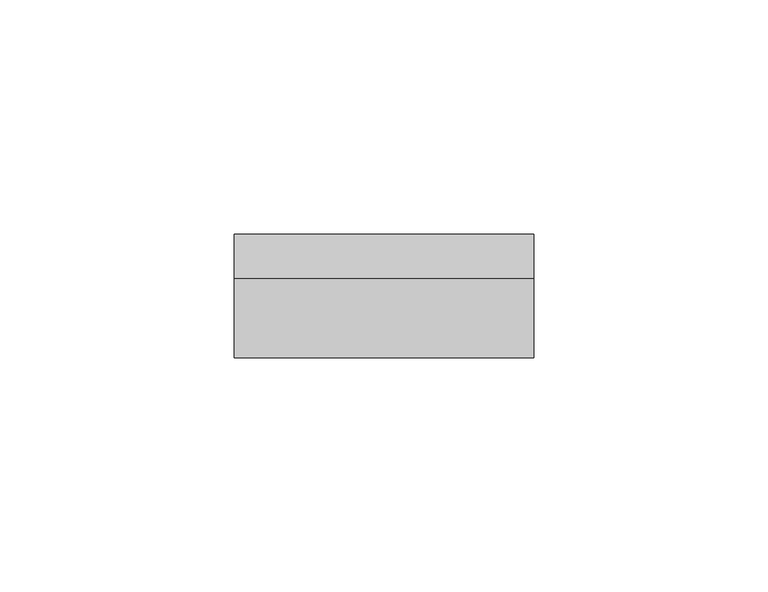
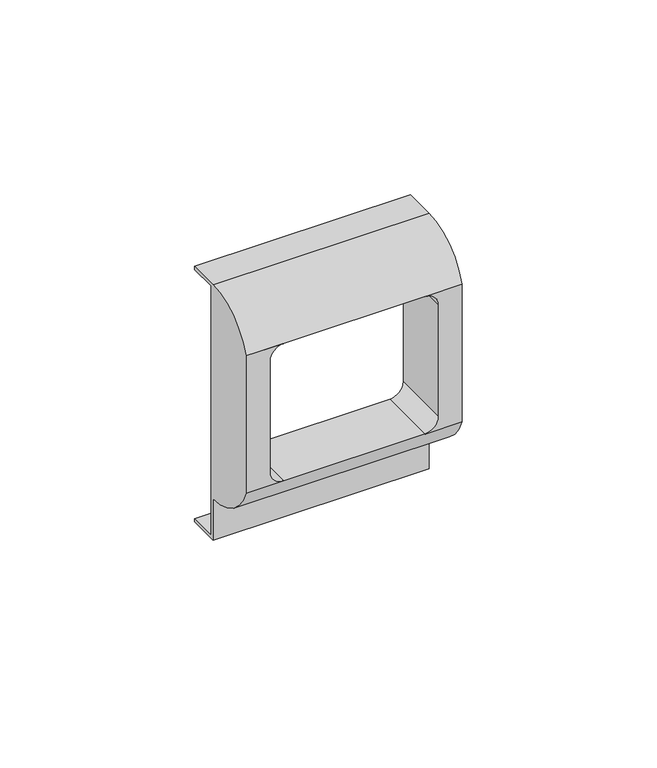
"""IFC4 building model written with IfcOpenShell, lengths in millimetres: proxy geometry."""

from ifc_helpers import new_model, si_unit, frame, origin, place, context, project, spatial, polyline, circle_curve, source, transform, mapped, element, save
from ifc_brep_helpers import plane_surface, cylinder_surface, revolved_surface, advanced_brep


def electrical_fixtures_7fec0965(model_context):
    return source(origin(), model_context, "Body", "AdvancedBrep", [
        advanced_brep(
        [(32.0, 8.4, 39.0), (32.0, 8.4, 40.0), (32.0, -1.0, 40.0), (32.0, -18.0, 28.0), (32.0, -18.0, -15.0), (32.0, -1.0, -27.0), (32.0, -1.0, -40.0), (32.0, 8.4, -40.0), (32.0, 8.4, -39.0), (32.0, 0.0, -39.0), (32.0, 0.0, 39.0), (-32.0, 8.4, 39.0), (-32.0, 0.0, 39.0), (-32.0, 0.0, -39.0), (-32.0, 8.4, -39.0), (-32.0, 8.4, -40.0), (-32.0, -1.0, -40.0), (-32.0, -1.0, -27.0), (-32.0, -18.0, -15.0), (-32.0, -18.0, 28.0), (-32.0, -1.0, 40.0), (-32.0, 8.4, 40.0), (20.9686648, -18.0, 28.0), (25.0, -18.0, 23.9686648), (25.0, -18.0, -10.9686648), (20.9686648, -18.0, -15.0), (-20.9686648, -18.0, -15.0), (-25.0, -18.0, -10.9686648), (-25.0, -18.0, 23.9686648), (-20.9686648, -18.0, 28.0), (20.9686648, 0.0, 28.0), (-20.9686648, 0.0, 28.0), (-25.0, 0.0, 23.9686648), (-25.0, 0.0, -10.9686648), (-20.9686648, 0.0, -15.0), (20.9686648, 0.0, -15.0), (25.0, 0.0, -10.9686648), (25.0, 0.0, 23.9686648)],
        [
            (0, 1),
            (1, 2),
            (2, 3, circle_curve(frame((32.0, -1.0, 21.9583333), z_axis=(1.0, 0.0, 0.0), x_axis=(0.0, 1.0, 0.0)), 18.0416667)),
            (3, 4),
            (4, 5, circle_curve(frame((32.0, -1.0, -8.9583333), z_axis=(1.0, 0.0, 0.0), x_axis=(0.0, 1.0, 0.0)), 18.0416667)),
            (5, 6),
            (6, 7),
            (7, 8),
            (8, 9),
            (9, 10),
            (10, 0),
            (11, 12),
            (12, 13),
            (13, 14),
            (14, 15),
            (15, 16),
            (16, 17),
            (17, 18, circle_curve(frame((-32.0, -1.0, -8.9583333), z_axis=(-1.0, 0.0, 0.0), x_axis=(0.0, 1.0, 0.0)), 18.0416667)),
            (18, 19),
            (19, 20, circle_curve(frame((-32.0, -1.0, 21.9583333), z_axis=(-1.0, 0.0, 0.0), x_axis=(0.0, 1.0, 0.0)), 18.0416667)),
            (20, 21),
            (21, 11),
            (0, 11),
            (21, 1),
            (20, 2),
            (3, 22),
            (22, 23, circle_curve(frame((20.9686648, -18.0, 23.9686648), z_axis=(0.0, 1.0, 0.0), x_axis=(1.0, 0.0, 0.0)), 4.0313352)),
            (23, 24),
            (24, 25, circle_curve(frame((20.9686648, -18.0, -10.9686648), z_axis=(0.0, 1.0, 0.0), x_axis=(1.0, 0.0, 0.0)), 4.0313352)),
            (25, 4),
            (18, 26),
            (26, 27, circle_curve(frame((-20.9686648, -18.0, -10.9686648), z_axis=(0.0, 1.0, 0.0), x_axis=(1.0, 0.0, 0.0)), 4.0313352)),
            (27, 28),
            (28, 29, circle_curve(frame((-20.9686648, -18.0, 23.9686648), z_axis=(0.0, 1.0, 0.0), x_axis=(1.0, 0.0, 0.0)), 4.0313352)),
            (29, 19),
            (5, 17),
            (16, 6),
            (15, 7),
            (14, 8),
            (13, 9),
            (12, 10),
            (30, 31),
            (31, 32, circle_curve(frame((-20.9686648, 0.0, 23.9686648), z_axis=(0.0, -1.0, 0.0), x_axis=(1.0, 0.0, 0.0)), 4.0313352)),
            (32, 33),
            (33, 34, circle_curve(frame((-20.9686648, 0.0, -10.9686648), z_axis=(0.0, -1.0, 0.0), x_axis=(1.0, 0.0, 0.0)), 4.0313352)),
            (34, 35),
            (35, 36, circle_curve(frame((20.9686648, 0.0, -10.9686648), z_axis=(0.0, -1.0, 0.0), x_axis=(1.0, 0.0, 0.0)), 4.0313352)),
            (36, 37),
            (37, 30, circle_curve(frame((20.9686648, 0.0, 23.9686648), z_axis=(0.0, -1.0, 0.0), x_axis=(1.0, 0.0, 0.0)), 4.0313352)),
            (29, 22),
            (25, 26),
            (29, 31),
            (30, 22),
            (28, 32),
            (27, 33),
            (26, 34),
            (25, 35),
            (24, 36),
            (23, 37),
        ],
        [
            plane_surface(frame((32.0, 8.4, 40.0), z_axis=(1.0, 0.0, 0.0), x_axis=(0.0, 0.0, 1.0))),
            plane_surface(frame((-32.0, 8.4, 40.0), z_axis=(-1.0, 0.0, 0.0), x_axis=(0.0, 0.0, -1.0))),
            plane_surface(frame((32.0, 8.4, 39.0), z_axis=(0.0, 1.0, 0.0), x_axis=(-1.0, 0.0, 0.0))),
            plane_surface(frame((32.0, 8.4, 40.0), z_axis=(0.0, 0.0, 1.0), x_axis=(-1.0, 0.0, 0.0))),
            plane_surface(frame((32.0, -18.0, 28.0), z_axis=(0.0, -1.0, 0.0), x_axis=(-1.0, 0.0, 0.0))),
            plane_surface(frame((32.0, -1.0, -27.0), z_axis=(0.0, -1.0, 0.0), x_axis=(-1.0, 0.0, 0.0))),
            plane_surface(frame((32.0, -1.0, -40.0), z_axis=(0.0, 0.0, -1.0), x_axis=(-1.0, 0.0, 0.0))),
            plane_surface(frame((32.0, 8.4, -40.0), z_axis=(0.0, 1.0, 0.0), x_axis=(-1.0, 0.0, 0.0))),
            plane_surface(frame((32.0, 8.4, -39.0), z_axis=(0.0, 0.0, 1.0), x_axis=(-1.0, 0.0, 0.0))),
            plane_surface(frame((32.0, 0.0, -39.0), z_axis=(0.0, 1.0, 0.0), x_axis=(-1.0, 0.0, 0.0))),
            plane_surface(frame((32.0, 0.0, 39.0), z_axis=(0.0, 0.0, -1.0), x_axis=(-1.0, 0.0, 0.0))),
            cylinder_surface(frame((-32.0, -1.0, 21.9583333), z_axis=(1.0, 0.0, 0.0), x_axis=(0.0, 1.0, 0.0)), 18.0416667),
            cylinder_surface(frame((-32.0, -1.0, -8.9583333), z_axis=(1.0, 0.0, 0.0), x_axis=(0.0, 1.0, 0.0)), 18.0416667),
            plane_surface(frame((20.9686648, -18.0, 28.0), z_axis=(0.0, 0.0, -1.0), x_axis=(0.0, 1.0, 0.0))),
            revolved_surface(polyline([(-16.937329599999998, -18.0, 23.9686648), (-16.937329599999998, 0.0, 23.9686648)]), (-20.9686648, 0.0, 23.9686648), (0.0, -1.0, 0.0)),
            plane_surface(frame((-25.0, -18.0, 23.9686648), z_axis=(1.0, 0.0, 0.0), x_axis=(0.0, 1.0, 0.0))),
            revolved_surface(polyline([(-16.937329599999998, -18.0, -10.9686648), (-16.937329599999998, 0.0, -10.9686648)]), (-20.9686648, 0.0, -10.9686648), (0.0, -1.0, 0.0)),
            plane_surface(frame((-20.9686648, -18.0, -15.0), z_axis=(0.0, 0.0, 1.0), x_axis=(0.0, 1.0, 0.0))),
            revolved_surface(polyline([(25.0, -18.0, -10.9686648), (25.0, 0.0, -10.9686648)]), (20.9686648, 0.0, -10.9686648), (0.0, -1.0, 0.0)),
            plane_surface(frame((25.0, -18.0, -10.9686648), z_axis=(-1.0, 0.0, 0.0), x_axis=(0.0, 1.0, 0.0))),
            revolved_surface(polyline([(25.0, -18.0, 23.9686648), (25.0, 0.0, 23.9686648)]), (20.9686648, 0.0, 23.9686648), (0.0, -1.0, 0.0)),
        ],
        [
            (0, [[1, 2, 3, 4, 5, 6, 7, 8, 9, 10, 11]]),
            (1, [[12, 13, 14, 15, 16, 17, 18, 19, 20, 21, 22]]),
            (2, [[-1, 23, -22, 24]]),
            (3, [[-2, -24, -21, 25]]),
            (4, [[-4, 26, 27, 28, 29, 30]]),
            (4, [[-19, 31, 32, 33, 34, 35]]),
            (5, [[-6, 36, -17, 37]]),
            (6, [[-7, -37, -16, 38]]),
            (7, [[-8, -38, -15, 39]]),
            (8, [[-9, -39, -14, 40]]),
            (9, [[-10, -40, -13, 41], [42, 43, 44, 45, 46, 47, 48, 49]]),
            (10, [[-11, -41, -12, -23]]),
            (11, [[-3, -25, -20, -35, 50, -26]]),
            (12, [[-5, -30, 51, -31, -18, -36]]),
            (13, [[52, -42, 53, -50]]),
            (14, [[-52, -34, 54, -43]]),
            (15, [[-54, -33, 55, -44]]),
            (16, [[-55, -32, 56, -45]]),
            (17, [[-56, -51, 57, -46]]),
            (18, [[-57, -29, 58, -47]]),
            (19, [[-58, -28, 59, -48]]),
            (20, [[-53, -49, -59, -27]]),
        ],
    ),
    ])


if __name__ == "__main__":
    model = new_model("IFC4")
    model_context = context("Model", 3, world=origin())
    ifc_project = project(units=[si_unit("LENGTHUNIT", "METRE", prefix="MILLI")], contexts=[model_context])
    site = spatial("IfcSite", under=ifc_project)
    building = spatial("IfcBuilding", under=site)
    placement = place(None, origin())
    electrical_fixtures_shape = electrical_fixtures_7fec0965(model_context)
    element("IfcBuildingElementProxy", 1, Name="КНС_РамкаСуппорт_ILC_DKC : Серия \"Brava\"", ObjectType="КНС_РамкаСуппорт_ILC_DKC : Серия \"Brava\"", at=placement, inside=building, context=model_context, shape_type="MappedRepresentation", body=[
        mapped(electrical_fixtures_shape, transform((0.0, 0.0, 0.0), x_axis=(1.0, 0.0, 0.0), y_axis=(0.0, 1.0, 0.0), z_axis=(0.0, 0.0, 1.0))),
    ])
    save(model, "model.ifc")
